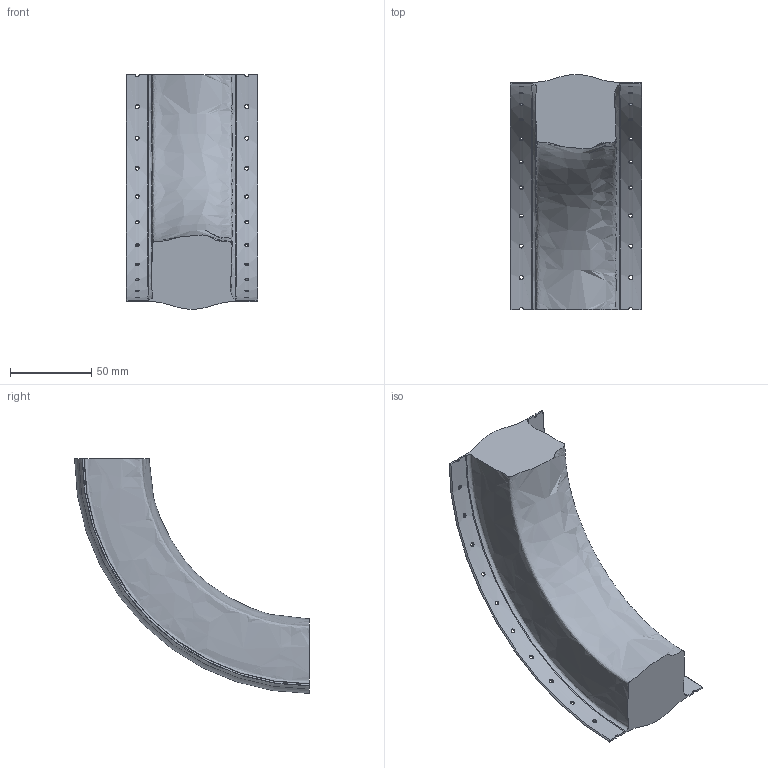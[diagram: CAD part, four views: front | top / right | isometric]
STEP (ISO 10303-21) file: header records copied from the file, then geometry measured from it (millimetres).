
FILE_DESCRIPTION(/* description */ (''),/* implementation_level */ '2;1');
FILE_NAME(/* name */ 'yastik.step',/* time_stamp */ '2023-10-29T00:34:10+03:00',/* author */ (''),/* organization */ (''),/* preprocessor_version */ 'ST-DEVELOPER v20',/* originating_system */ 'Autodesk Translation Framework v12.14.0.127',/* authorisation */ '');
FILE_SCHEMA (('AUTOMOTIVE_DESIGN { 1 0 10303 214 3 1 1 }'));
Length unit declared in the file: millimetre
Products named in the file (1): FusionComponent
Bounding box: 81.14 x 144.49 x 144.49 mm (x, y, z)
Volume: 391350.8 mm3; surface area: 50481.7 mm2
Topology: 1 solids, 1 shells, 43 faces, 163 edges, 122 vertices
Faces by surface type: cylinder 28, torus 8, plane 6, bspline 1
Full cylindrical faces by diameter (mm): 2.5 x10, 2.6 x10
Entity records: 3314 total; most frequent: CARTESIAN_POINT 1941, ORIENTED_EDGE 326, DIRECTION 188, EDGE_CURVE 163, VERTEX_POINT 122, B_SPLINE_CURVE_WITH_KNOTS 90, EDGE_LOOP 83, AXIS2_PLACEMENT_3D 72
